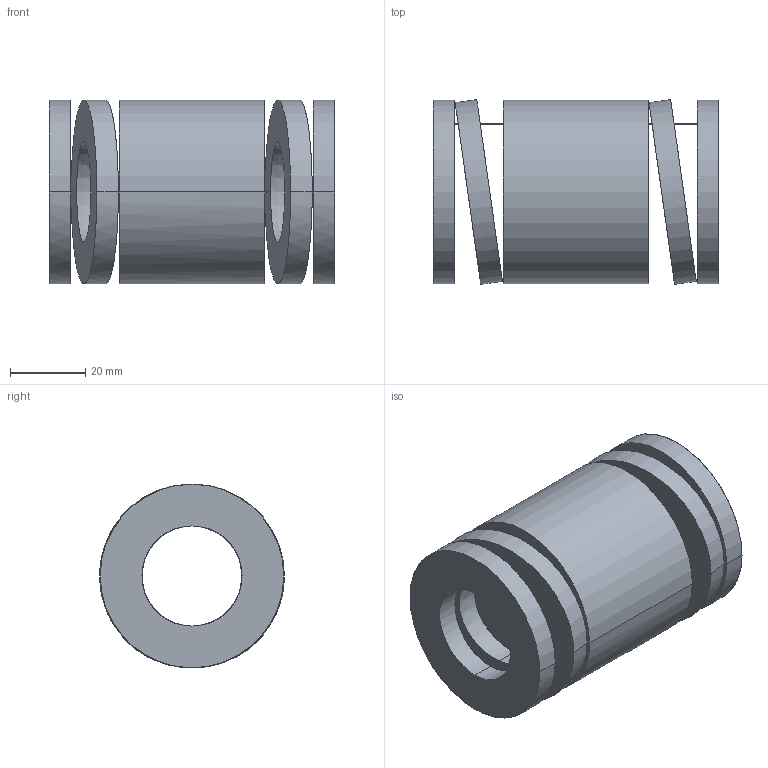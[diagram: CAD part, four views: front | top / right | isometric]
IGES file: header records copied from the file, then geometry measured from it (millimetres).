
Start section: START RECORD GO HERE.
Global section: file name: 392-B50-076.igs; native system: DASSAULT SYSTEMES CATIA V5 R20 - www.3ds.com; preprocessor: CATIA Version 5 Release 20 ; author: Utente; organization: NB04-ASUS; date: 20210813.133956; units: millimetre
Bounding box: 76 x 49.13 x 48.8 mm (x, y, z)
Surface area: 27791.3 mm2 (no closed solid volume)
Topology: 0 solids, 0 shells, 38 faces, 184 edges, 184 vertices
Faces by surface type: revolution 28, plane 10
